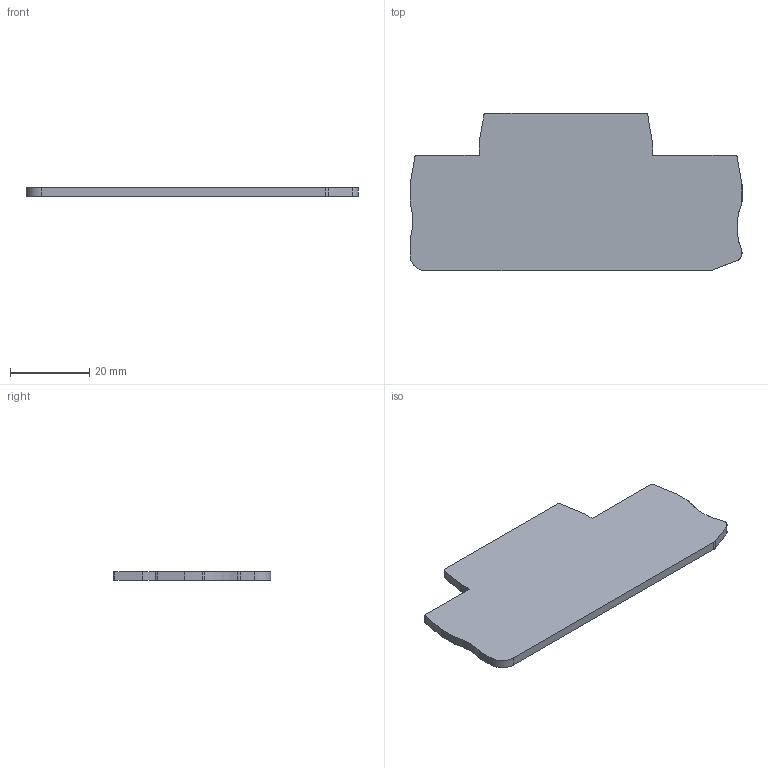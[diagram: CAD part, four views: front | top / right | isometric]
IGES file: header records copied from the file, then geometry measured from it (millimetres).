
Global section: file name: 3030462_d_sttb4.igs; native system: OneSpace Designer 3D IGES; preprocessor: 11.50A  18-Jul-2002; date: 20040204.084836; units: millimetre
Bounding box: 83.65 x 39.65 x 2.2 mm (x, y, z)
Surface area: 6214.8 mm2 (no closed solid volume)
Topology: 0 solids, 0 shells, 34 faces, 262 edges, 262 vertices
Faces by surface type: bspline 34
